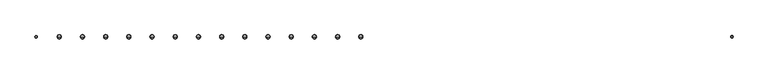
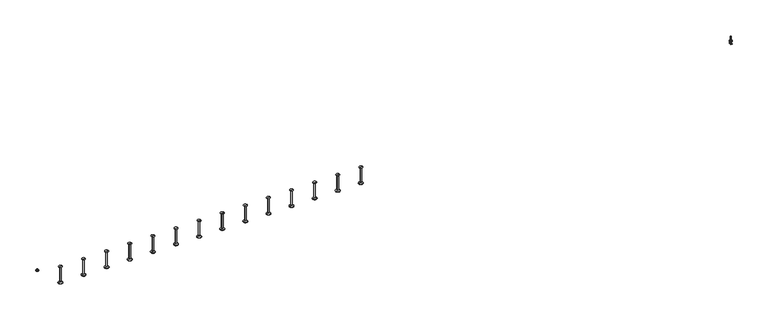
"""IFC4 building model written with IfcOpenShell, lengths in millimetres: fastener geometry, JXA(-PC) JORDAHL® toothed channels : JXA(-PC) L=6000 mm."""

from ifc_helpers import new_model, si_unit, point, frame, frame_2d, origin, place, context, project, spatial, polyline, circle_curve, trimmed, segment, composite_curve, outline, extrude, source, transform, mapped, element, save
from ifc_brep_helpers import plane_surface, cylinder_surface, revolved_surface, advanced_brep


def fastener_91ec93cb(model_context):
    return source(origin(), model_context, "Body", "SolidModel", [
        advanced_brep(
        [(2802.3333333, 0.0, -20.0), (2816.8333333, 0.0, -20.0), (2787.8333333, 0.0, -20.0), (2784.3333333, 0.0, -166.0), (2820.3333333, 0.0, -166.0), (2802.3333333, 0.0, -166.0), (2784.3333333, 0.0, -164.0), (2820.3333333, 0.0, -164.0), (2796.3333333, 0.0, -157.0717968), (2808.3333333, 0.0, -157.0717968), (2796.3333333, 0.0, -22.5), (2808.3333333, 0.0, -22.5)],
        [
            (0, 1),
            (1, 2, circle_curve(frame((2802.3333333, 0.0, -20.0), z_axis=(0.0, 0.0, 1.0), x_axis=(1.0, 0.0, 0.0)), 14.5)),
            (2, 0),
            (2, 1, circle_curve(frame((2802.3333333, 0.0, -20.0), z_axis=(0.0, 0.0, 1.0), x_axis=(1.0, 0.0, 0.0)), 14.5)),
            (3, 4, circle_curve(frame((2802.3333333, 0.0, -166.0), z_axis=(0.0, 0.0, -1.0), x_axis=(1.0, 0.0, 0.0)), 18.0)),
            (4, 5),
            (5, 3),
            (4, 3, circle_curve(frame((2802.3333333, 0.0, -166.0), z_axis=(0.0, 0.0, -1.0), x_axis=(1.0, 0.0, 0.0)), 18.0)),
            (6, 7, circle_curve(frame((2802.3333333, 0.0, -164.0), z_axis=(0.0, 0.0, -1.0), x_axis=(1.0, 0.0, 0.0)), 18.0)),
            (7, 4),
            (3, 6),
            (7, 6, circle_curve(frame((2802.3333333, 0.0, -164.0), z_axis=(0.0, 0.0, -1.0), x_axis=(1.0, 0.0, 0.0)), 18.0)),
            (8, 9, circle_curve(frame((2802.3333333, 0.0, -157.0717968), z_axis=(0.0, 0.0, -1.0), x_axis=(1.0, 0.0, 0.0)), 6.0)),
            (9, 7),
            (6, 8),
            (9, 8, circle_curve(frame((2802.3333333, 0.0, -157.0717968), z_axis=(0.0, 0.0, -1.0), x_axis=(1.0, 0.0, 0.0)), 6.0)),
            (10, 11, circle_curve(frame((2802.3333333, 0.0, -22.5), z_axis=(0.0, 0.0, -1.0), x_axis=(1.0, 0.0, 0.0)), 6.0)),
            (11, 9),
            (8, 10),
            (11, 10, circle_curve(frame((2802.3333333, 0.0, -22.5), z_axis=(0.0, 0.0, -1.0), x_axis=(1.0, 0.0, 0.0)), 6.0)),
            (1, 11),
            (10, 2),
        ],
        [
            plane_surface(frame((2802.3333333, 0.0, -20.0), z_axis=(0.0, 0.0, 1.0), x_axis=(1.0, 0.0, 0.0))),
            plane_surface(frame((2802.3333333, 0.0, -166.0), z_axis=(0.0, 0.0, -1.0), x_axis=(1.0, 0.0, 0.0))),
            cylinder_surface(frame((2802.3333333, 0.0, 2214.3150031), z_axis=(0.0, 0.0, 1.0), x_axis=(1.0, 0.0, 0.0)), 18.0),
            revolved_surface(polyline([(2820.3333333, 0.0, -164.0), (2808.3333333, 0.0, -157.0717968)]), (2802.3333333, 0.0, 2214.3150031), (0.0, 0.0, 1.0)),
            cylinder_surface(frame((2802.3333333, 0.0, 2214.3150031), z_axis=(0.0, 0.0, 1.0), x_axis=(1.0, 0.0, 0.0)), 6.0),
            revolved_surface(polyline([(2808.3333333, 0.0, -22.5), (2816.8333333, 0.0, -20.0)]), (2802.3333333, 0.0, 2214.3150031), (0.0, 0.0, 1.0)),
        ],
        [
            (0, [[1, 2, 3]]),
            (0, [[-3, 4, -1]]),
            (1, [[5, 6, 7]]),
            (1, [[8, -7, -6]]),
            (2, [[9, 10, -5, 11]]),
            (2, [[12, -11, -8, -10]]),
            (3, [[13, 14, -9, 15]]),
            (3, [[16, -15, -12, -14]]),
            (4, [[17, 18, -13, 19]]),
            (4, [[20, -19, -16, -18]]),
            (5, [[-2, 21, -17, 22]]),
            (5, [[-4, -22, -20, -21]]),
        ],
    ),
        advanced_brep(
        [(2604.6666667, 0.0, -20.0), (2619.1666667, 0.0, -20.0), (2590.1666667, 0.0, -20.0), (2586.6666667, 0.0, -166.0), (2622.6666667, 0.0, -166.0), (2604.6666667, 0.0, -166.0), (2586.6666667, 0.0, -164.0), (2622.6666667, 0.0, -164.0), (2598.6666667, 0.0, -157.0717968), (2610.6666667, 0.0, -157.0717968), (2598.6666667, 0.0, -22.5), (2610.6666667, 0.0, -22.5)],
        [
            (0, 1),
            (1, 2, circle_curve(frame((2604.6666667, 0.0, -20.0), z_axis=(0.0, 0.0, 1.0), x_axis=(1.0, 0.0, 0.0)), 14.5)),
            (2, 0),
            (2, 1, circle_curve(frame((2604.6666667, 0.0, -20.0), z_axis=(0.0, 0.0, 1.0), x_axis=(1.0, 0.0, 0.0)), 14.5)),
            (3, 4, circle_curve(frame((2604.6666667, 0.0, -166.0), z_axis=(0.0, 0.0, -1.0), x_axis=(1.0, 0.0, 0.0)), 18.0)),
            (4, 5),
            (5, 3),
            (4, 3, circle_curve(frame((2604.6666667, 0.0, -166.0), z_axis=(0.0, 0.0, -1.0), x_axis=(1.0, 0.0, 0.0)), 18.0)),
            (6, 7, circle_curve(frame((2604.6666667, 0.0, -164.0), z_axis=(0.0, 0.0, -1.0), x_axis=(1.0, 0.0, 0.0)), 18.0)),
            (7, 4),
            (3, 6),
            (7, 6, circle_curve(frame((2604.6666667, 0.0, -164.0), z_axis=(0.0, 0.0, -1.0), x_axis=(1.0, 0.0, 0.0)), 18.0)),
            (8, 9, circle_curve(frame((2604.6666667, 0.0, -157.0717968), z_axis=(0.0, 0.0, -1.0), x_axis=(1.0, 0.0, 0.0)), 6.0)),
            (9, 7),
            (6, 8),
            (9, 8, circle_curve(frame((2604.6666667, 0.0, -157.0717968), z_axis=(0.0, 0.0, -1.0), x_axis=(1.0, 0.0, 0.0)), 6.0)),
            (10, 11, circle_curve(frame((2604.6666667, 0.0, -22.5), z_axis=(0.0, 0.0, -1.0), x_axis=(1.0, 0.0, 0.0)), 6.0)),
            (11, 9),
            (8, 10),
            (11, 10, circle_curve(frame((2604.6666667, 0.0, -22.5), z_axis=(0.0, 0.0, -1.0), x_axis=(1.0, 0.0, 0.0)), 6.0)),
            (1, 11),
            (10, 2),
        ],
        [
            plane_surface(frame((2604.6666667, 0.0, -20.0), z_axis=(0.0, 0.0, 1.0), x_axis=(1.0, 0.0, 0.0))),
            plane_surface(frame((2604.6666667, 0.0, -166.0), z_axis=(0.0, 0.0, -1.0), x_axis=(1.0, 0.0, 0.0))),
            cylinder_surface(frame((2604.6666667, 0.0, 2214.3150031), z_axis=(0.0, 0.0, 1.0), x_axis=(1.0, 0.0, 0.0)), 18.0),
            revolved_surface(polyline([(2622.6666667, 0.0, -164.0), (2610.6666667, 0.0, -157.0717968)]), (2604.6666667, 0.0, 2214.3150031), (0.0, 0.0, 1.0)),
            cylinder_surface(frame((2604.6666667, 0.0, 2214.3150031), z_axis=(0.0, 0.0, 1.0), x_axis=(1.0, 0.0, 0.0)), 6.0),
            revolved_surface(polyline([(2610.6666667, 0.0, -22.5), (2619.1666667, 0.0, -20.0)]), (2604.6666667, 0.0, 2214.3150031), (0.0, 0.0, 1.0)),
        ],
        [
            (0, [[1, 2, 3]]),
            (0, [[-3, 4, -1]]),
            (1, [[5, 6, 7]]),
            (1, [[8, -7, -6]]),
            (2, [[9, 10, -5, 11]]),
            (2, [[12, -11, -8, -10]]),
            (3, [[13, 14, -9, 15]]),
            (3, [[16, -15, -12, -14]]),
            (4, [[17, 18, -13, 19]]),
            (4, [[20, -19, -16, -18]]),
            (5, [[-2, 21, -17, 22]]),
            (5, [[-4, -22, -20, -21]]),
        ],
    ),
        advanced_brep(
        [(2407.0, 0.0, -20.0), (2421.5, 0.0, -20.0), (2392.5, 0.0, -20.0), (2389.0, 0.0, -166.0), (2425.0, 0.0, -166.0), (2407.0, 0.0, -166.0), (2389.0, 0.0, -164.0), (2425.0, 0.0, -164.0), (2401.0, 0.0, -157.0717968), (2413.0, 0.0, -157.0717968), (2401.0, 0.0, -22.5), (2413.0, 0.0, -22.5)],
        [
            (0, 1),
            (1, 2, circle_curve(frame((2407.0, 0.0, -20.0), z_axis=(0.0, 0.0, 1.0), x_axis=(1.0, 0.0, 0.0)), 14.5)),
            (2, 0),
            (2, 1, circle_curve(frame((2407.0, 0.0, -20.0), z_axis=(0.0, 0.0, 1.0), x_axis=(1.0, 0.0, 0.0)), 14.5)),
            (3, 4, circle_curve(frame((2407.0, 0.0, -166.0), z_axis=(0.0, 0.0, -1.0), x_axis=(1.0, 0.0, 0.0)), 18.0)),
            (4, 5),
            (5, 3),
            (4, 3, circle_curve(frame((2407.0, 0.0, -166.0), z_axis=(0.0, 0.0, -1.0), x_axis=(1.0, 0.0, 0.0)), 18.0)),
            (6, 7, circle_curve(frame((2407.0, 0.0, -164.0), z_axis=(0.0, 0.0, -1.0), x_axis=(1.0, 0.0, 0.0)), 18.0)),
            (7, 4),
            (3, 6),
            (7, 6, circle_curve(frame((2407.0, 0.0, -164.0), z_axis=(0.0, 0.0, -1.0), x_axis=(1.0, 0.0, 0.0)), 18.0)),
            (8, 9, circle_curve(frame((2407.0, 0.0, -157.0717968), z_axis=(0.0, 0.0, -1.0), x_axis=(1.0, 0.0, 0.0)), 6.0)),
            (9, 7),
            (6, 8),
            (9, 8, circle_curve(frame((2407.0, 0.0, -157.0717968), z_axis=(0.0, 0.0, -1.0), x_axis=(1.0, 0.0, 0.0)), 6.0)),
            (10, 11, circle_curve(frame((2407.0, 0.0, -22.5), z_axis=(0.0, 0.0, -1.0), x_axis=(1.0, 0.0, 0.0)), 6.0)),
            (11, 9),
            (8, 10),
            (11, 10, circle_curve(frame((2407.0, 0.0, -22.5), z_axis=(0.0, 0.0, -1.0), x_axis=(1.0, 0.0, 0.0)), 6.0)),
            (1, 11),
            (10, 2),
        ],
        [
            plane_surface(frame((2407.0, 0.0, -20.0), z_axis=(0.0, 0.0, 1.0), x_axis=(1.0, 0.0, 0.0))),
            plane_surface(frame((2407.0, 0.0, -166.0), z_axis=(0.0, 0.0, -1.0), x_axis=(1.0, 0.0, 0.0))),
            cylinder_surface(frame((2407.0, 0.0, 2214.3150031), z_axis=(0.0, 0.0, 1.0), x_axis=(1.0, 0.0, 0.0)), 18.0),
            revolved_surface(polyline([(2425.0, 0.0, -164.0), (2413.0, 0.0, -157.0717968)]), (2407.0, 0.0, 2214.3150031), (0.0, 0.0, 1.0)),
            cylinder_surface(frame((2407.0, 0.0, 2214.3150031), z_axis=(0.0, 0.0, 1.0), x_axis=(1.0, 0.0, 0.0)), 6.0),
            revolved_surface(polyline([(2413.0, 0.0, -22.5), (2421.5, 0.0, -20.0)]), (2407.0, 0.0, 2214.3150031), (0.0, 0.0, 1.0)),
        ],
        [
            (0, [[1, 2, 3]]),
            (0, [[-3, 4, -1]]),
            (1, [[5, 6, 7]]),
            (1, [[8, -7, -6]]),
            (2, [[9, 10, -5, 11]]),
            (2, [[12, -11, -8, -10]]),
            (3, [[13, 14, -9, 15]]),
            (3, [[16, -15, -12, -14]]),
            (4, [[17, 18, -13, 19]]),
            (4, [[20, -19, -16, -18]]),
            (5, [[-2, 21, -17, 22]]),
            (5, [[-4, -22, -20, -21]]),
        ],
    ),
        advanced_brep(
        [(2209.3333333, 0.0, -20.0), (2223.8333333, 0.0, -20.0), (2194.8333333, 0.0, -20.0), (2191.3333333, 0.0, -166.0), (2227.3333333, 0.0, -166.0), (2209.3333333, 0.0, -166.0), (2191.3333333, 0.0, -164.0), (2227.3333333, 0.0, -164.0), (2203.3333333, 0.0, -157.0717968), (2215.3333333, 0.0, -157.0717968), (2203.3333333, 0.0, -22.5), (2215.3333333, 0.0, -22.5)],
        [
            (0, 1),
            (1, 2, circle_curve(frame((2209.3333333, 0.0, -20.0), z_axis=(0.0, 0.0, 1.0), x_axis=(1.0, 0.0, 0.0)), 14.5)),
            (2, 0),
            (2, 1, circle_curve(frame((2209.3333333, 0.0, -20.0), z_axis=(0.0, 0.0, 1.0), x_axis=(1.0, 0.0, 0.0)), 14.5)),
            (3, 4, circle_curve(frame((2209.3333333, 0.0, -166.0), z_axis=(0.0, 0.0, -1.0), x_axis=(1.0, 0.0, 0.0)), 18.0)),
            (4, 5),
            (5, 3),
            (4, 3, circle_curve(frame((2209.3333333, 0.0, -166.0), z_axis=(0.0, 0.0, -1.0), x_axis=(1.0, 0.0, 0.0)), 18.0)),
            (6, 7, circle_curve(frame((2209.3333333, 0.0, -164.0), z_axis=(0.0, 0.0, -1.0), x_axis=(1.0, 0.0, 0.0)), 18.0)),
            (7, 4),
            (3, 6),
            (7, 6, circle_curve(frame((2209.3333333, 0.0, -164.0), z_axis=(0.0, 0.0, -1.0), x_axis=(1.0, 0.0, 0.0)), 18.0)),
            (8, 9, circle_curve(frame((2209.3333333, 0.0, -157.0717968), z_axis=(0.0, 0.0, -1.0), x_axis=(1.0, 0.0, 0.0)), 6.0)),
            (9, 7),
            (6, 8),
            (9, 8, circle_curve(frame((2209.3333333, 0.0, -157.0717968), z_axis=(0.0, 0.0, -1.0), x_axis=(1.0, 0.0, 0.0)), 6.0)),
            (10, 11, circle_curve(frame((2209.3333333, 0.0, -22.5), z_axis=(0.0, 0.0, -1.0), x_axis=(1.0, 0.0, 0.0)), 6.0)),
            (11, 9),
            (8, 10),
            (11, 10, circle_curve(frame((2209.3333333, 0.0, -22.5), z_axis=(0.0, 0.0, -1.0), x_axis=(1.0, 0.0, 0.0)), 6.0)),
            (1, 11),
            (10, 2),
        ],
        [
            plane_surface(frame((2209.3333333, 0.0, -20.0), z_axis=(0.0, 0.0, 1.0), x_axis=(1.0, 0.0, 0.0))),
            plane_surface(frame((2209.3333333, 0.0, -166.0), z_axis=(0.0, 0.0, -1.0), x_axis=(1.0, 0.0, 0.0))),
            cylinder_surface(frame((2209.3333333, 0.0, 2214.3150031), z_axis=(0.0, 0.0, 1.0), x_axis=(1.0, 0.0, 0.0)), 18.0),
            revolved_surface(polyline([(2227.3333333, 0.0, -164.0), (2215.3333333, 0.0, -157.0717968)]), (2209.3333333, 0.0, 2214.3150031), (0.0, 0.0, 1.0)),
            cylinder_surface(frame((2209.3333333, 0.0, 2214.3150031), z_axis=(0.0, 0.0, 1.0), x_axis=(1.0, 0.0, 0.0)), 6.0),
            revolved_surface(polyline([(2215.3333333, 0.0, -22.5), (2223.8333333, 0.0, -20.0)]), (2209.3333333, 0.0, 2214.3150031), (0.0, 0.0, 1.0)),
        ],
        [
            (0, [[1, 2, 3]]),
            (0, [[-3, 4, -1]]),
            (1, [[5, 6, 7]]),
            (1, [[8, -7, -6]]),
            (2, [[9, 10, -5, 11]]),
            (2, [[12, -11, -8, -10]]),
            (3, [[13, 14, -9, 15]]),
            (3, [[16, -15, -12, -14]]),
            (4, [[17, 18, -13, 19]]),
            (4, [[20, -19, -16, -18]]),
            (5, [[-2, 21, -17, 22]]),
            (5, [[-4, -22, -20, -21]]),
        ],
    ),
        advanced_brep(
        [(2011.6666667, 0.0, -20.0), (2026.1666667, 0.0, -20.0), (1997.1666667, 0.0, -20.0), (1993.6666667, 0.0, -166.0), (2029.6666667, 0.0, -166.0), (2011.6666667, 0.0, -166.0), (1993.6666667, 0.0, -164.0), (2029.6666667, 0.0, -164.0), (2005.6666667, 0.0, -157.0717968), (2017.6666667, 0.0, -157.0717968), (2005.6666667, 0.0, -22.5), (2017.6666667, 0.0, -22.5)],
        [
            (0, 1),
            (1, 2, circle_curve(frame((2011.6666667, 0.0, -20.0), z_axis=(0.0, 0.0, 1.0), x_axis=(1.0, 0.0, 0.0)), 14.5)),
            (2, 0),
            (2, 1, circle_curve(frame((2011.6666667, 0.0, -20.0), z_axis=(0.0, 0.0, 1.0), x_axis=(1.0, 0.0, 0.0)), 14.5)),
            (3, 4, circle_curve(frame((2011.6666667, 0.0, -166.0), z_axis=(0.0, 0.0, -1.0), x_axis=(1.0, 0.0, 0.0)), 18.0)),
            (4, 5),
            (5, 3),
            (4, 3, circle_curve(frame((2011.6666667, 0.0, -166.0), z_axis=(0.0, 0.0, -1.0), x_axis=(1.0, 0.0, 0.0)), 18.0)),
            (6, 7, circle_curve(frame((2011.6666667, 0.0, -164.0), z_axis=(0.0, 0.0, -1.0), x_axis=(1.0, 0.0, 0.0)), 18.0)),
            (7, 4),
            (3, 6),
            (7, 6, circle_curve(frame((2011.6666667, 0.0, -164.0), z_axis=(0.0, 0.0, -1.0), x_axis=(1.0, 0.0, 0.0)), 18.0)),
            (8, 9, circle_curve(frame((2011.6666667, 0.0, -157.0717968), z_axis=(0.0, 0.0, -1.0), x_axis=(1.0, 0.0, 0.0)), 6.0)),
            (9, 7),
            (6, 8),
            (9, 8, circle_curve(frame((2011.6666667, 0.0, -157.0717968), z_axis=(0.0, 0.0, -1.0), x_axis=(1.0, 0.0, 0.0)), 6.0)),
            (10, 11, circle_curve(frame((2011.6666667, 0.0, -22.5), z_axis=(0.0, 0.0, -1.0), x_axis=(1.0, 0.0, 0.0)), 6.0)),
            (11, 9),
            (8, 10),
            (11, 10, circle_curve(frame((2011.6666667, 0.0, -22.5), z_axis=(0.0, 0.0, -1.0), x_axis=(1.0, 0.0, 0.0)), 6.0)),
            (1, 11),
            (10, 2),
        ],
        [
            plane_surface(frame((2011.6666667, 0.0, -20.0), z_axis=(0.0, 0.0, 1.0), x_axis=(1.0, 0.0, 0.0))),
            plane_surface(frame((2011.6666667, 0.0, -166.0), z_axis=(0.0, 0.0, -1.0), x_axis=(1.0, 0.0, 0.0))),
            cylinder_surface(frame((2011.6666667, 0.0, 2214.3150031), z_axis=(0.0, 0.0, 1.0), x_axis=(1.0, 0.0, 0.0)), 18.0),
            revolved_surface(polyline([(2029.6666667, 0.0, -164.0), (2017.6666667, 0.0, -157.0717968)]), (2011.6666667, 0.0, 2214.3150031), (0.0, 0.0, 1.0)),
            cylinder_surface(frame((2011.6666667, 0.0, 2214.3150031), z_axis=(0.0, 0.0, 1.0), x_axis=(1.0, 0.0, 0.0)), 6.0),
            revolved_surface(polyline([(2017.6666667, 0.0, -22.5), (2026.1666667, 0.0, -20.0)]), (2011.6666667, 0.0, 2214.3150031), (0.0, 0.0, 1.0)),
        ],
        [
            (0, [[1, 2, 3]]),
            (0, [[-3, 4, -1]]),
            (1, [[5, 6, 7]]),
            (1, [[8, -7, -6]]),
            (2, [[9, 10, -5, 11]]),
            (2, [[12, -11, -8, -10]]),
            (3, [[13, 14, -9, 15]]),
            (3, [[16, -15, -12, -14]]),
            (4, [[17, 18, -13, 19]]),
            (4, [[20, -19, -16, -18]]),
            (5, [[-2, 21, -17, 22]]),
            (5, [[-4, -22, -20, -21]]),
        ],
    ),
        advanced_brep(
        [(1814.0, 0.0, -20.0), (1828.5, 0.0, -20.0), (1799.5, 0.0, -20.0), (1796.0, 0.0, -166.0), (1832.0, 0.0, -166.0), (1814.0, 0.0, -166.0), (1796.0, 0.0, -164.0), (1832.0, 0.0, -164.0), (1808.0, 0.0, -157.0717968), (1820.0, 0.0, -157.0717968), (1808.0, 0.0, -22.5), (1820.0, 0.0, -22.5)],
        [
            (0, 1),
            (1, 2, circle_curve(frame((1814.0, 0.0, -20.0), z_axis=(0.0, 0.0, 1.0), x_axis=(1.0, 0.0, 0.0)), 14.5)),
            (2, 0),
            (2, 1, circle_curve(frame((1814.0, 0.0, -20.0), z_axis=(0.0, 0.0, 1.0), x_axis=(1.0, 0.0, 0.0)), 14.5)),
            (3, 4, circle_curve(frame((1814.0, 0.0, -166.0), z_axis=(0.0, 0.0, -1.0), x_axis=(1.0, 0.0, 0.0)), 18.0)),
            (4, 5),
            (5, 3),
            (4, 3, circle_curve(frame((1814.0, 0.0, -166.0), z_axis=(0.0, 0.0, -1.0), x_axis=(1.0, 0.0, 0.0)), 18.0)),
            (6, 7, circle_curve(frame((1814.0, 0.0, -164.0), z_axis=(0.0, 0.0, -1.0), x_axis=(1.0, 0.0, 0.0)), 18.0)),
            (7, 4),
            (3, 6),
            (7, 6, circle_curve(frame((1814.0, 0.0, -164.0), z_axis=(0.0, 0.0, -1.0), x_axis=(1.0, 0.0, 0.0)), 18.0)),
            (8, 9, circle_curve(frame((1814.0, 0.0, -157.0717968), z_axis=(0.0, 0.0, -1.0), x_axis=(1.0, 0.0, 0.0)), 6.0)),
            (9, 7),
            (6, 8),
            (9, 8, circle_curve(frame((1814.0, 0.0, -157.0717968), z_axis=(0.0, 0.0, -1.0), x_axis=(1.0, 0.0, 0.0)), 6.0)),
            (10, 11, circle_curve(frame((1814.0, 0.0, -22.5), z_axis=(0.0, 0.0, -1.0), x_axis=(1.0, 0.0, 0.0)), 6.0)),
            (11, 9),
            (8, 10),
            (11, 10, circle_curve(frame((1814.0, 0.0, -22.5), z_axis=(0.0, 0.0, -1.0), x_axis=(1.0, 0.0, 0.0)), 6.0)),
            (1, 11),
            (10, 2),
        ],
        [
            plane_surface(frame((1814.0, 0.0, -20.0), z_axis=(0.0, 0.0, 1.0), x_axis=(1.0, 0.0, 0.0))),
            plane_surface(frame((1814.0, 0.0, -166.0), z_axis=(0.0, 0.0, -1.0), x_axis=(1.0, 0.0, 0.0))),
            cylinder_surface(frame((1814.0, 0.0, 2214.3150031), z_axis=(0.0, 0.0, 1.0), x_axis=(1.0, 0.0, 0.0)), 18.0),
            revolved_surface(polyline([(1832.0, 0.0, -164.0), (1820.0, 0.0, -157.0717968)]), (1814.0, 0.0, 2214.3150031), (0.0, 0.0, 1.0)),
            cylinder_surface(frame((1814.0, 0.0, 2214.3150031), z_axis=(0.0, 0.0, 1.0), x_axis=(1.0, 0.0, 0.0)), 6.0),
            revolved_surface(polyline([(1820.0, 0.0, -22.5), (1828.5, 0.0, -20.0)]), (1814.0, 0.0, 2214.3150031), (0.0, 0.0, 1.0)),
        ],
        [
            (0, [[1, 2, 3]]),
            (0, [[-3, 4, -1]]),
            (1, [[5, 6, 7]]),
            (1, [[8, -7, -6]]),
            (2, [[9, 10, -5, 11]]),
            (2, [[12, -11, -8, -10]]),
            (3, [[13, 14, -9, 15]]),
            (3, [[16, -15, -12, -14]]),
            (4, [[17, 18, -13, 19]]),
            (4, [[20, -19, -16, -18]]),
            (5, [[-2, 21, -17, 22]]),
            (5, [[-4, -22, -20, -21]]),
        ],
    ),
        advanced_brep(
        [(1616.3333333, 0.0, -20.0), (1630.8333333, 0.0, -20.0), (1601.8333333, 0.0, -20.0), (1598.3333333, 0.0, -166.0), (1634.3333333, 0.0, -166.0), (1616.3333333, 0.0, -166.0), (1598.3333333, 0.0, -164.0), (1634.3333333, 0.0, -164.0), (1610.3333333, 0.0, -157.0717968), (1622.3333333, 0.0, -157.0717968), (1610.3333333, 0.0, -22.5), (1622.3333333, 0.0, -22.5)],
        [
            (0, 1),
            (1, 2, circle_curve(frame((1616.3333333, 0.0, -20.0), z_axis=(0.0, 0.0, 1.0), x_axis=(1.0, 0.0, 0.0)), 14.5)),
            (2, 0),
            (2, 1, circle_curve(frame((1616.3333333, 0.0, -20.0), z_axis=(0.0, 0.0, 1.0), x_axis=(1.0, 0.0, 0.0)), 14.5)),
            (3, 4, circle_curve(frame((1616.3333333, 0.0, -166.0), z_axis=(0.0, 0.0, -1.0), x_axis=(1.0, 0.0, 0.0)), 18.0)),
            (4, 5),
            (5, 3),
            (4, 3, circle_curve(frame((1616.3333333, 0.0, -166.0), z_axis=(0.0, 0.0, -1.0), x_axis=(1.0, 0.0, 0.0)), 18.0)),
            (6, 7, circle_curve(frame((1616.3333333, 0.0, -164.0), z_axis=(0.0, 0.0, -1.0), x_axis=(1.0, 0.0, 0.0)), 18.0)),
            (7, 4),
            (3, 6),
            (7, 6, circle_curve(frame((1616.3333333, 0.0, -164.0), z_axis=(0.0, 0.0, -1.0), x_axis=(1.0, 0.0, 0.0)), 18.0)),
            (8, 9, circle_curve(frame((1616.3333333, 0.0, -157.0717968), z_axis=(0.0, 0.0, -1.0), x_axis=(1.0, 0.0, 0.0)), 6.0)),
            (9, 7),
            (6, 8),
            (9, 8, circle_curve(frame((1616.3333333, 0.0, -157.0717968), z_axis=(0.0, 0.0, -1.0), x_axis=(1.0, 0.0, 0.0)), 6.0)),
            (10, 11, circle_curve(frame((1616.3333333, 0.0, -22.5), z_axis=(0.0, 0.0, -1.0), x_axis=(1.0, 0.0, 0.0)), 6.0)),
            (11, 9),
            (8, 10),
            (11, 10, circle_curve(frame((1616.3333333, 0.0, -22.5), z_axis=(0.0, 0.0, -1.0), x_axis=(1.0, 0.0, 0.0)), 6.0)),
            (1, 11),
            (10, 2),
        ],
        [
            plane_surface(frame((1616.3333333, 0.0, -20.0), z_axis=(0.0, 0.0, 1.0), x_axis=(1.0, 0.0, 0.0))),
            plane_surface(frame((1616.3333333, 0.0, -166.0), z_axis=(0.0, 0.0, -1.0), x_axis=(1.0, 0.0, 0.0))),
            cylinder_surface(frame((1616.3333333, 0.0, 2214.3150031), z_axis=(0.0, 0.0, 1.0), x_axis=(1.0, 0.0, 0.0)), 18.0),
            revolved_surface(polyline([(1634.3333333, 0.0, -164.0), (1622.3333333, 0.0, -157.0717968)]), (1616.3333333, 0.0, 2214.3150031), (0.0, 0.0, 1.0)),
            cylinder_surface(frame((1616.3333333, 0.0, 2214.3150031), z_axis=(0.0, 0.0, 1.0), x_axis=(1.0, 0.0, 0.0)), 6.0),
            revolved_surface(polyline([(1622.3333333, 0.0, -22.5), (1630.8333333, 0.0, -20.0)]), (1616.3333333, 0.0, 2214.3150031), (0.0, 0.0, 1.0)),
        ],
        [
            (0, [[1, 2, 3]]),
            (0, [[-3, 4, -1]]),
            (1, [[5, 6, 7]]),
            (1, [[8, -7, -6]]),
            (2, [[9, 10, -5, 11]]),
            (2, [[12, -11, -8, -10]]),
            (3, [[13, 14, -9, 15]]),
            (3, [[16, -15, -12, -14]]),
            (4, [[17, 18, -13, 19]]),
            (4, [[20, -19, -16, -18]]),
            (5, [[-2, 21, -17, 22]]),
            (5, [[-4, -22, -20, -21]]),
        ],
    ),
        advanced_brep(
        [(1418.6666667, 0.0, -20.0), (1433.1666667, 0.0, -20.0), (1404.1666667, 0.0, -20.0), (1400.6666667, 0.0, -166.0), (1436.6666667, 0.0, -166.0), (1418.6666667, 0.0, -166.0), (1400.6666667, 0.0, -164.0), (1436.6666667, 0.0, -164.0), (1412.6666667, 0.0, -157.0717968), (1424.6666667, 0.0, -157.0717968), (1412.6666667, 0.0, -22.5), (1424.6666667, 0.0, -22.5)],
        [
            (0, 1),
            (1, 2, circle_curve(frame((1418.6666667, 0.0, -20.0), z_axis=(0.0, 0.0, 1.0), x_axis=(1.0, 0.0, 0.0)), 14.5)),
            (2, 0),
            (2, 1, circle_curve(frame((1418.6666667, 0.0, -20.0), z_axis=(0.0, 0.0, 1.0), x_axis=(1.0, 0.0, 0.0)), 14.5)),
            (3, 4, circle_curve(frame((1418.6666667, 0.0, -166.0), z_axis=(0.0, 0.0, -1.0), x_axis=(1.0, 0.0, 0.0)), 18.0)),
            (4, 5),
            (5, 3),
            (4, 3, circle_curve(frame((1418.6666667, 0.0, -166.0), z_axis=(0.0, 0.0, -1.0), x_axis=(1.0, 0.0, 0.0)), 18.0)),
            (6, 7, circle_curve(frame((1418.6666667, 0.0, -164.0), z_axis=(0.0, 0.0, -1.0), x_axis=(1.0, 0.0, 0.0)), 18.0)),
            (7, 4),
            (3, 6),
            (7, 6, circle_curve(frame((1418.6666667, 0.0, -164.0), z_axis=(0.0, 0.0, -1.0), x_axis=(1.0, 0.0, 0.0)), 18.0)),
            (8, 9, circle_curve(frame((1418.6666667, 0.0, -157.0717968), z_axis=(0.0, 0.0, -1.0), x_axis=(1.0, 0.0, 0.0)), 6.0)),
            (9, 7),
            (6, 8),
            (9, 8, circle_curve(frame((1418.6666667, 0.0, -157.0717968), z_axis=(0.0, 0.0, -1.0), x_axis=(1.0, 0.0, 0.0)), 6.0)),
            (10, 11, circle_curve(frame((1418.6666667, 0.0, -22.5), z_axis=(0.0, 0.0, -1.0), x_axis=(1.0, 0.0, 0.0)), 6.0)),
            (11, 9),
            (8, 10),
            (11, 10, circle_curve(frame((1418.6666667, 0.0, -22.5), z_axis=(0.0, 0.0, -1.0), x_axis=(1.0, 0.0, 0.0)), 6.0)),
            (1, 11),
            (10, 2),
        ],
        [
            plane_surface(frame((1418.6666667, 0.0, -20.0), z_axis=(0.0, 0.0, 1.0), x_axis=(1.0, 0.0, 0.0))),
            plane_surface(frame((1418.6666667, 0.0, -166.0), z_axis=(0.0, 0.0, -1.0), x_axis=(1.0, 0.0, 0.0))),
            cylinder_surface(frame((1418.6666667, 0.0, 2214.3150031), z_axis=(0.0, 0.0, 1.0), x_axis=(1.0, 0.0, 0.0)), 18.0),
            revolved_surface(polyline([(1436.6666667, 0.0, -164.0), (1424.6666667, 0.0, -157.0717968)]), (1418.6666667, 0.0, 2214.3150031), (0.0, 0.0, 1.0)),
            cylinder_surface(frame((1418.6666667, 0.0, 2214.3150031), z_axis=(0.0, 0.0, 1.0), x_axis=(1.0, 0.0, 0.0)), 6.0),
            revolved_surface(polyline([(1424.6666667, 0.0, -22.5), (1433.1666667, 0.0, -20.0)]), (1418.6666667, 0.0, 2214.3150031), (0.0, 0.0, 1.0)),
        ],
        [
            (0, [[1, 2, 3]]),
            (0, [[-3, 4, -1]]),
            (1, [[5, 6, 7]]),
            (1, [[8, -7, -6]]),
            (2, [[9, 10, -5, 11]]),
            (2, [[12, -11, -8, -10]]),
            (3, [[13, 14, -9, 15]]),
            (3, [[16, -15, -12, -14]]),
            (4, [[17, 18, -13, 19]]),
            (4, [[20, -19, -16, -18]]),
            (5, [[-2, 21, -17, 22]]),
            (5, [[-4, -22, -20, -21]]),
        ],
    ),
        advanced_brep(
        [(1221.0, 0.0, -20.0), (1235.5, 0.0, -20.0), (1206.5, 0.0, -20.0), (1203.0, 0.0, -166.0), (1239.0, 0.0, -166.0), (1221.0, 0.0, -166.0), (1203.0, 0.0, -164.0), (1239.0, 0.0, -164.0), (1215.0, 0.0, -157.0717968), (1227.0, 0.0, -157.0717968), (1215.0, 0.0, -22.5), (1227.0, 0.0, -22.5)],
        [
            (0, 1),
            (1, 2, circle_curve(frame((1221.0, 0.0, -20.0), z_axis=(0.0, 0.0, 1.0), x_axis=(1.0, 0.0, 0.0)), 14.5)),
            (2, 0),
            (2, 1, circle_curve(frame((1221.0, 0.0, -20.0), z_axis=(0.0, 0.0, 1.0), x_axis=(1.0, 0.0, 0.0)), 14.5)),
            (3, 4, circle_curve(frame((1221.0, 0.0, -166.0), z_axis=(0.0, 0.0, -1.0), x_axis=(1.0, 0.0, 0.0)), 18.0)),
            (4, 5),
            (5, 3),
            (4, 3, circle_curve(frame((1221.0, 0.0, -166.0), z_axis=(0.0, 0.0, -1.0), x_axis=(1.0, 0.0, 0.0)), 18.0)),
            (6, 7, circle_curve(frame((1221.0, 0.0, -164.0), z_axis=(0.0, 0.0, -1.0), x_axis=(1.0, 0.0, 0.0)), 18.0)),
            (7, 4),
            (3, 6),
            (7, 6, circle_curve(frame((1221.0, 0.0, -164.0), z_axis=(0.0, 0.0, -1.0), x_axis=(1.0, 0.0, 0.0)), 18.0)),
            (8, 9, circle_curve(frame((1221.0, 0.0, -157.0717968), z_axis=(0.0, 0.0, -1.0), x_axis=(1.0, 0.0, 0.0)), 6.0)),
            (9, 7),
            (6, 8),
            (9, 8, circle_curve(frame((1221.0, 0.0, -157.0717968), z_axis=(0.0, 0.0, -1.0), x_axis=(1.0, 0.0, 0.0)), 6.0)),
            (10, 11, circle_curve(frame((1221.0, 0.0, -22.5), z_axis=(0.0, 0.0, -1.0), x_axis=(1.0, 0.0, 0.0)), 6.0)),
            (11, 9),
            (8, 10),
            (11, 10, circle_curve(frame((1221.0, 0.0, -22.5), z_axis=(0.0, 0.0, -1.0), x_axis=(1.0, 0.0, 0.0)), 6.0)),
            (1, 11),
            (10, 2),
        ],
        [
            plane_surface(frame((1221.0, 0.0, -20.0), z_axis=(0.0, 0.0, 1.0), x_axis=(1.0, 0.0, 0.0))),
            plane_surface(frame((1221.0, 0.0, -166.0), z_axis=(0.0, 0.0, -1.0), x_axis=(1.0, 0.0, 0.0))),
            cylinder_surface(frame((1221.0, 0.0, 2214.3150031), z_axis=(0.0, 0.0, 1.0), x_axis=(1.0, 0.0, 0.0)), 18.0),
            revolved_surface(polyline([(1239.0, 0.0, -164.0), (1227.0, 0.0, -157.0717968)]), (1221.0, 0.0, 2214.3150031), (0.0, 0.0, 1.0)),
            cylinder_surface(frame((1221.0, 0.0, 2214.3150031), z_axis=(0.0, 0.0, 1.0), x_axis=(1.0, 0.0, 0.0)), 6.0),
            revolved_surface(polyline([(1227.0, 0.0, -22.5), (1235.5, 0.0, -20.0)]), (1221.0, 0.0, 2214.3150031), (0.0, 0.0, 1.0)),
        ],
        [
            (0, [[1, 2, 3]]),
            (0, [[-3, 4, -1]]),
            (1, [[5, 6, 7]]),
            (1, [[8, -7, -6]]),
            (2, [[9, 10, -5, 11]]),
            (2, [[12, -11, -8, -10]]),
            (3, [[13, 14, -9, 15]]),
            (3, [[16, -15, -12, -14]]),
            (4, [[17, 18, -13, 19]]),
            (4, [[20, -19, -16, -18]]),
            (5, [[-2, 21, -17, 22]]),
            (5, [[-4, -22, -20, -21]]),
        ],
    ),
        advanced_brep(
        [(1023.3333333, 0.0, -20.0), (1037.8333333, 0.0, -20.0), (1008.8333333, 0.0, -20.0), (1005.3333333, 0.0, -166.0), (1041.3333333, 0.0, -166.0), (1023.3333333, 0.0, -166.0), (1005.3333333, 0.0, -164.0), (1041.3333333, 0.0, -164.0), (1017.3333333, 0.0, -157.0717968), (1029.3333333, 0.0, -157.0717968), (1017.3333333, 0.0, -22.5), (1029.3333333, 0.0, -22.5)],
        [
            (0, 1),
            (1, 2, circle_curve(frame((1023.3333333, 0.0, -20.0), z_axis=(0.0, 0.0, 1.0), x_axis=(1.0, 0.0, 0.0)), 14.5)),
            (2, 0),
            (2, 1, circle_curve(frame((1023.3333333, 0.0, -20.0), z_axis=(0.0, 0.0, 1.0), x_axis=(1.0, 0.0, 0.0)), 14.5)),
            (3, 4, circle_curve(frame((1023.3333333, 0.0, -166.0), z_axis=(0.0, 0.0, -1.0), x_axis=(1.0, 0.0, 0.0)), 18.0)),
            (4, 5),
            (5, 3),
            (4, 3, circle_curve(frame((1023.3333333, 0.0, -166.0), z_axis=(0.0, 0.0, -1.0), x_axis=(1.0, 0.0, 0.0)), 18.0)),
            (6, 7, circle_curve(frame((1023.3333333, 0.0, -164.0), z_axis=(0.0, 0.0, -1.0), x_axis=(1.0, 0.0, 0.0)), 18.0)),
            (7, 4),
            (3, 6),
            (7, 6, circle_curve(frame((1023.3333333, 0.0, -164.0), z_axis=(0.0, 0.0, -1.0), x_axis=(1.0, 0.0, 0.0)), 18.0)),
            (8, 9, circle_curve(frame((1023.3333333, 0.0, -157.0717968), z_axis=(0.0, 0.0, -1.0), x_axis=(1.0, 0.0, 0.0)), 6.0)),
            (9, 7),
            (6, 8),
            (9, 8, circle_curve(frame((1023.3333333, 0.0, -157.0717968), z_axis=(0.0, 0.0, -1.0), x_axis=(1.0, 0.0, 0.0)), 6.0)),
            (10, 11, circle_curve(frame((1023.3333333, 0.0, -22.5), z_axis=(0.0, 0.0, -1.0), x_axis=(1.0, 0.0, 0.0)), 6.0)),
            (11, 9),
            (8, 10),
            (11, 10, circle_curve(frame((1023.3333333, 0.0, -22.5), z_axis=(0.0, 0.0, -1.0), x_axis=(1.0, 0.0, 0.0)), 6.0)),
            (1, 11),
            (10, 2),
        ],
        [
            plane_surface(frame((1023.3333333, 0.0, -20.0), z_axis=(0.0, 0.0, 1.0), x_axis=(1.0, 0.0, 0.0))),
            plane_surface(frame((1023.3333333, 0.0, -166.0), z_axis=(0.0, 0.0, -1.0), x_axis=(1.0, 0.0, 0.0))),
            cylinder_surface(frame((1023.3333333, 0.0, 2214.3150031), z_axis=(0.0, 0.0, 1.0), x_axis=(1.0, 0.0, 0.0)), 18.0),
            revolved_surface(polyline([(1041.3333333, 0.0, -164.0), (1029.3333333, 0.0, -157.0717968)]), (1023.3333333, 0.0, 2214.3150031), (0.0, 0.0, 1.0)),
            cylinder_surface(frame((1023.3333333, 0.0, 2214.3150031), z_axis=(0.0, 0.0, 1.0), x_axis=(1.0, 0.0, 0.0)), 6.0),
            revolved_surface(polyline([(1029.3333333, 0.0, -22.5), (1037.8333333, 0.0, -20.0)]), (1023.3333333, 0.0, 2214.3150031), (0.0, 0.0, 1.0)),
        ],
        [
            (0, [[1, 2, 3]]),
            (0, [[-3, 4, -1]]),
            (1, [[5, 6, 7]]),
            (1, [[8, -7, -6]]),
            (2, [[9, 10, -5, 11]]),
            (2, [[12, -11, -8, -10]]),
            (3, [[13, 14, -9, 15]]),
            (3, [[16, -15, -12, -14]]),
            (4, [[17, 18, -13, 19]]),
            (4, [[20, -19, -16, -18]]),
            (5, [[-2, 21, -17, 22]]),
            (5, [[-4, -22, -20, -21]]),
        ],
    ),
        advanced_brep(
        [(825.6666667, 0.0, -20.0), (840.1666667, 0.0, -20.0), (811.1666667, 0.0, -20.0), (807.6666667, 0.0, -166.0), (843.6666667, 0.0, -166.0), (825.6666667, 0.0, -166.0), (807.6666667, 0.0, -164.0), (843.6666667, 0.0, -164.0), (819.6666667, 0.0, -157.0717968), (831.6666667, 0.0, -157.0717968), (819.6666667, 0.0, -22.5), (831.6666667, 0.0, -22.5)],
        [
            (0, 1),
            (1, 2, circle_curve(frame((825.6666667, 0.0, -20.0), z_axis=(0.0, 0.0, 1.0), x_axis=(1.0, 0.0, 0.0)), 14.5)),
            (2, 0),
            (2, 1, circle_curve(frame((825.6666667, 0.0, -20.0), z_axis=(0.0, 0.0, 1.0), x_axis=(1.0, 0.0, 0.0)), 14.5)),
            (3, 4, circle_curve(frame((825.6666667, 0.0, -166.0), z_axis=(0.0, 0.0, -1.0), x_axis=(1.0, 0.0, 0.0)), 18.0)),
            (4, 5),
            (5, 3),
            (4, 3, circle_curve(frame((825.6666667, 0.0, -166.0), z_axis=(0.0, 0.0, -1.0), x_axis=(1.0, 0.0, 0.0)), 18.0)),
            (6, 7, circle_curve(frame((825.6666667, 0.0, -164.0), z_axis=(0.0, 0.0, -1.0), x_axis=(1.0, 0.0, 0.0)), 18.0)),
            (7, 4),
            (3, 6),
            (7, 6, circle_curve(frame((825.6666667, 0.0, -164.0), z_axis=(0.0, 0.0, -1.0), x_axis=(1.0, 0.0, 0.0)), 18.0)),
            (8, 9, circle_curve(frame((825.6666667, 0.0, -157.0717968), z_axis=(0.0, 0.0, -1.0), x_axis=(1.0, 0.0, 0.0)), 6.0)),
            (9, 7),
            (6, 8),
            (9, 8, circle_curve(frame((825.6666667, 0.0, -157.0717968), z_axis=(0.0, 0.0, -1.0), x_axis=(1.0, 0.0, 0.0)), 6.0)),
            (10, 11, circle_curve(frame((825.6666667, 0.0, -22.5), z_axis=(0.0, 0.0, -1.0), x_axis=(1.0, 0.0, 0.0)), 6.0)),
            (11, 9),
            (8, 10),
            (11, 10, circle_curve(frame((825.6666667, 0.0, -22.5), z_axis=(0.0, 0.0, -1.0), x_axis=(1.0, 0.0, 0.0)), 6.0)),
            (1, 11),
            (10, 2),
        ],
        [
            plane_surface(frame((825.6666667, 0.0, -20.0), z_axis=(0.0, 0.0, 1.0), x_axis=(1.0, 0.0, 0.0))),
            plane_surface(frame((825.6666667, 0.0, -166.0), z_axis=(0.0, 0.0, -1.0), x_axis=(1.0, 0.0, 0.0))),
            cylinder_surface(frame((825.6666667, 0.0, 2214.3150031), z_axis=(0.0, 0.0, 1.0), x_axis=(1.0, 0.0, 0.0)), 18.0),
            revolved_surface(polyline([(843.6666667, 0.0, -164.0), (831.6666667, 0.0, -157.0717968)]), (825.6666667, 0.0, 2214.3150031), (0.0, 0.0, 1.0)),
            cylinder_surface(frame((825.6666667, 0.0, 2214.3150031), z_axis=(0.0, 0.0, 1.0), x_axis=(1.0, 0.0, 0.0)), 6.0),
            revolved_surface(polyline([(831.6666667, 0.0, -22.5), (840.1666667, 0.0, -20.0)]), (825.6666667, 0.0, 2214.3150031), (0.0, 0.0, 1.0)),
        ],
        [
            (0, [[1, 2, 3]]),
            (0, [[-3, 4, -1]]),
            (1, [[5, 6, 7]]),
            (1, [[8, -7, -6]]),
            (2, [[9, 10, -5, 11]]),
            (2, [[12, -11, -8, -10]]),
            (3, [[13, 14, -9, 15]]),
            (3, [[16, -15, -12, -14]]),
            (4, [[17, 18, -13, 19]]),
            (4, [[20, -19, -16, -18]]),
            (5, [[-2, 21, -17, 22]]),
            (5, [[-4, -22, -20, -21]]),
        ],
    ),
        advanced_brep(
        [(628.0, 0.0, -20.0), (642.5, 0.0, -20.0), (613.5, 0.0, -20.0), (610.0, 0.0, -166.0), (646.0, 0.0, -166.0), (628.0, 0.0, -166.0), (610.0, 0.0, -164.0), (646.0, 0.0, -164.0), (622.0, 0.0, -157.0717968), (634.0, 0.0, -157.0717968), (622.0, 0.0, -22.5), (634.0, 0.0, -22.5)],
        [
            (0, 1),
            (1, 2, circle_curve(frame((628.0, 0.0, -20.0), z_axis=(0.0, 0.0, 1.0), x_axis=(1.0, 0.0, 0.0)), 14.5)),
            (2, 0),
            (2, 1, circle_curve(frame((628.0, 0.0, -20.0), z_axis=(0.0, 0.0, 1.0), x_axis=(1.0, 0.0, 0.0)), 14.5)),
            (3, 4, circle_curve(frame((628.0, 0.0, -166.0), z_axis=(0.0, 0.0, -1.0), x_axis=(1.0, 0.0, 0.0)), 18.0)),
            (4, 5),
            (5, 3),
            (4, 3, circle_curve(frame((628.0, 0.0, -166.0), z_axis=(0.0, 0.0, -1.0), x_axis=(1.0, 0.0, 0.0)), 18.0)),
            (6, 7, circle_curve(frame((628.0, 0.0, -164.0), z_axis=(0.0, 0.0, -1.0), x_axis=(1.0, 0.0, 0.0)), 18.0)),
            (7, 4),
            (3, 6),
            (7, 6, circle_curve(frame((628.0, 0.0, -164.0), z_axis=(0.0, 0.0, -1.0), x_axis=(1.0, 0.0, 0.0)), 18.0)),
            (8, 9, circle_curve(frame((628.0, 0.0, -157.0717968), z_axis=(0.0, 0.0, -1.0), x_axis=(1.0, 0.0, 0.0)), 6.0)),
            (9, 7),
            (6, 8),
            (9, 8, circle_curve(frame((628.0, 0.0, -157.0717968), z_axis=(0.0, 0.0, -1.0), x_axis=(1.0, 0.0, 0.0)), 6.0)),
            (10, 11, circle_curve(frame((628.0, 0.0, -22.5), z_axis=(0.0, 0.0, -1.0), x_axis=(1.0, 0.0, 0.0)), 6.0)),
            (11, 9),
            (8, 10),
            (11, 10, circle_curve(frame((628.0, 0.0, -22.5), z_axis=(0.0, 0.0, -1.0), x_axis=(1.0, 0.0, 0.0)), 6.0)),
            (1, 11),
            (10, 2),
        ],
        [
            plane_surface(frame((628.0, 0.0, -20.0), z_axis=(0.0, 0.0, 1.0), x_axis=(1.0, 0.0, 0.0))),
            plane_surface(frame((628.0, 0.0, -166.0), z_axis=(0.0, 0.0, -1.0), x_axis=(1.0, 0.0, 0.0))),
            cylinder_surface(frame((628.0, 0.0, 2214.3150031), z_axis=(0.0, 0.0, 1.0), x_axis=(1.0, 0.0, 0.0)), 18.0),
            revolved_surface(polyline([(646.0, 0.0, -164.0), (634.0, 0.0, -157.0717968)]), (628.0, 0.0, 2214.3150031), (0.0, 0.0, 1.0)),
            cylinder_surface(frame((628.0, 0.0, 2214.3150031), z_axis=(0.0, 0.0, 1.0), x_axis=(1.0, 0.0, 0.0)), 6.0),
            revolved_surface(polyline([(634.0, 0.0, -22.5), (642.5, 0.0, -20.0)]), (628.0, 0.0, 2214.3150031), (0.0, 0.0, 1.0)),
        ],
        [
            (0, [[1, 2, 3]]),
            (0, [[-3, 4, -1]]),
            (1, [[5, 6, 7]]),
            (1, [[8, -7, -6]]),
            (2, [[9, 10, -5, 11]]),
            (2, [[12, -11, -8, -10]]),
            (3, [[13, 14, -9, 15]]),
            (3, [[16, -15, -12, -14]]),
            (4, [[17, 18, -13, 19]]),
            (4, [[20, -19, -16, -18]]),
            (5, [[-2, 21, -17, 22]]),
            (5, [[-4, -22, -20, -21]]),
        ],
    ),
        advanced_brep(
        [(430.3333333, 0.0, -20.0), (444.8333333, 0.0, -20.0), (415.8333333, 0.0, -20.0), (412.3333333, 0.0, -166.0), (448.3333333, 0.0, -166.0), (430.3333333, 0.0, -166.0), (412.3333333, 0.0, -164.0), (448.3333333, 0.0, -164.0), (424.3333333, 0.0, -157.0717968), (436.3333333, 0.0, -157.0717968), (424.3333333, 0.0, -22.5), (436.3333333, 0.0, -22.5)],
        [
            (0, 1),
            (1, 2, circle_curve(frame((430.3333333, 0.0, -20.0), z_axis=(0.0, 0.0, 1.0), x_axis=(1.0, 0.0, 0.0)), 14.5)),
            (2, 0),
            (2, 1, circle_curve(frame((430.3333333, 0.0, -20.0), z_axis=(0.0, 0.0, 1.0), x_axis=(1.0, 0.0, 0.0)), 14.5)),
            (3, 4, circle_curve(frame((430.3333333, 0.0, -166.0), z_axis=(0.0, 0.0, -1.0), x_axis=(1.0, 0.0, 0.0)), 18.0)),
            (4, 5),
            (5, 3),
            (4, 3, circle_curve(frame((430.3333333, 0.0, -166.0), z_axis=(0.0, 0.0, -1.0), x_axis=(1.0, 0.0, 0.0)), 18.0)),
            (6, 7, circle_curve(frame((430.3333333, 0.0, -164.0), z_axis=(0.0, 0.0, -1.0), x_axis=(1.0, 0.0, 0.0)), 18.0)),
            (7, 4),
            (3, 6),
            (7, 6, circle_curve(frame((430.3333333, 0.0, -164.0), z_axis=(0.0, 0.0, -1.0), x_axis=(1.0, 0.0, 0.0)), 18.0)),
            (8, 9, circle_curve(frame((430.3333333, 0.0, -157.0717968), z_axis=(0.0, 0.0, -1.0), x_axis=(1.0, 0.0, 0.0)), 6.0)),
            (9, 7),
            (6, 8),
            (9, 8, circle_curve(frame((430.3333333, 0.0, -157.0717968), z_axis=(0.0, 0.0, -1.0), x_axis=(1.0, 0.0, 0.0)), 6.0)),
            (10, 11, circle_curve(frame((430.3333333, 0.0, -22.5), z_axis=(0.0, 0.0, -1.0), x_axis=(1.0, 0.0, 0.0)), 6.0)),
            (11, 9),
            (8, 10),
            (11, 10, circle_curve(frame((430.3333333, 0.0, -22.5), z_axis=(0.0, 0.0, -1.0), x_axis=(1.0, 0.0, 0.0)), 6.0)),
            (1, 11),
            (10, 2),
        ],
        [
            plane_surface(frame((430.3333333, 0.0, -20.0), z_axis=(0.0, 0.0, 1.0), x_axis=(1.0, 0.0, 0.0))),
            plane_surface(frame((430.3333333, 0.0, -166.0), z_axis=(0.0, 0.0, -1.0), x_axis=(1.0, 0.0, 0.0))),
            cylinder_surface(frame((430.3333333, 0.0, 2214.3150031), z_axis=(0.0, 0.0, 1.0), x_axis=(1.0, 0.0, 0.0)), 18.0),
            revolved_surface(polyline([(448.3333333, 0.0, -164.0), (436.3333333, 0.0, -157.0717968)]), (430.3333333, 0.0, 2214.3150031), (0.0, 0.0, 1.0)),
            cylinder_surface(frame((430.3333333, 0.0, 2214.3150031), z_axis=(0.0, 0.0, 1.0), x_axis=(1.0, 0.0, 0.0)), 6.0),
            revolved_surface(polyline([(436.3333333, 0.0, -22.5), (444.8333333, 0.0, -20.0)]), (430.3333333, 0.0, 2214.3150031), (0.0, 0.0, 1.0)),
        ],
        [
            (0, [[1, 2, 3]]),
            (0, [[-3, 4, -1]]),
            (1, [[5, 6, 7]]),
            (1, [[8, -7, -6]]),
            (2, [[9, 10, -5, 11]]),
            (2, [[12, -11, -8, -10]]),
            (3, [[13, 14, -9, 15]]),
            (3, [[16, -15, -12, -14]]),
            (4, [[17, 18, -13, 19]]),
            (4, [[20, -19, -16, -18]]),
            (5, [[-2, 21, -17, 22]]),
            (5, [[-4, -22, -20, -21]]),
        ],
    ),
        advanced_brep(
        [(232.6666667, 0.0, -20.0), (247.1666667, 0.0, -20.0), (218.1666667, 0.0, -20.0), (214.6666667, 0.0, -166.0), (250.6666667, 0.0, -166.0), (232.6666667, 0.0, -166.0), (214.6666667, 0.0, -164.0), (250.6666667, 0.0, -164.0), (226.6666667, 0.0, -157.0717968), (238.6666667, 0.0, -157.0717968), (226.6666667, 0.0, -22.5), (238.6666667, 0.0, -22.5)],
        [
            (0, 1),
            (1, 2, circle_curve(frame((232.6666667, 0.0, -20.0), z_axis=(0.0, 0.0, 1.0), x_axis=(1.0, 0.0, 0.0)), 14.5)),
            (2, 0),
            (2, 1, circle_curve(frame((232.6666667, 0.0, -20.0), z_axis=(0.0, 0.0, 1.0), x_axis=(1.0, 0.0, 0.0)), 14.5)),
            (3, 4, circle_curve(frame((232.6666667, 0.0, -166.0), z_axis=(0.0, 0.0, -1.0), x_axis=(1.0, 0.0, 0.0)), 18.0)),
            (4, 5),
            (5, 3),
            (4, 3, circle_curve(frame((232.6666667, 0.0, -166.0), z_axis=(0.0, 0.0, -1.0), x_axis=(1.0, 0.0, 0.0)), 18.0)),
            (6, 7, circle_curve(frame((232.6666667, 0.0, -164.0), z_axis=(0.0, 0.0, -1.0), x_axis=(1.0, 0.0, 0.0)), 18.0)),
            (7, 4),
            (3, 6),
            (7, 6, circle_curve(frame((232.6666667, 0.0, -164.0), z_axis=(0.0, 0.0, -1.0), x_axis=(1.0, 0.0, 0.0)), 18.0)),
            (8, 9, circle_curve(frame((232.6666667, 0.0, -157.0717968), z_axis=(0.0, 0.0, -1.0), x_axis=(1.0, 0.0, 0.0)), 6.0)),
            (9, 7),
            (6, 8),
            (9, 8, circle_curve(frame((232.6666667, 0.0, -157.0717968), z_axis=(0.0, 0.0, -1.0), x_axis=(1.0, 0.0, 0.0)), 6.0)),
            (10, 11, circle_curve(frame((232.6666667, 0.0, -22.5), z_axis=(0.0, 0.0, -1.0), x_axis=(1.0, 0.0, 0.0)), 6.0)),
            (11, 9),
            (8, 10),
            (11, 10, circle_curve(frame((232.6666667, 0.0, -22.5), z_axis=(0.0, 0.0, -1.0), x_axis=(1.0, 0.0, 0.0)), 6.0)),
            (1, 11),
            (10, 2),
        ],
        [
            plane_surface(frame((232.6666667, 0.0, -20.0), z_axis=(0.0, 0.0, 1.0), x_axis=(1.0, 0.0, 0.0))),
            plane_surface(frame((232.6666667, 0.0, -166.0), z_axis=(0.0, 0.0, -1.0), x_axis=(1.0, 0.0, 0.0))),
            cylinder_surface(frame((232.6666667, 0.0, 2214.3150031), z_axis=(0.0, 0.0, 1.0), x_axis=(1.0, 0.0, 0.0)), 18.0),
            revolved_surface(polyline([(250.6666667, 0.0, -164.0), (238.6666667, 0.0, -157.0717968)]), (232.6666667, 0.0, 2214.3150031), (0.0, 0.0, 1.0)),
            cylinder_surface(frame((232.6666667, 0.0, 2214.3150031), z_axis=(0.0, 0.0, 1.0), x_axis=(1.0, 0.0, 0.0)), 6.0),
            revolved_surface(polyline([(238.6666667, 0.0, -22.5), (247.1666667, 0.0, -20.0)]), (232.6666667, 0.0, 2214.3150031), (0.0, 0.0, 1.0)),
        ],
        [
            (0, [[1, 2, 3]]),
            (0, [[-3, 4, -1]]),
            (1, [[5, 6, 7]]),
            (1, [[8, -7, -6]]),
            (2, [[9, 10, -5, 11]]),
            (2, [[12, -11, -8, -10]]),
            (3, [[13, 14, -9, 15]]),
            (3, [[16, -15, -12, -14]]),
            (4, [[17, 18, -13, 19]]),
            (4, [[20, -19, -16, -18]]),
            (5, [[-2, 21, -17, 22]]),
            (5, [[-4, -22, -20, -21]]),
        ],
    ),
        extrude(outline(composite_curve([segment(trimmed(circle_curve(frame_2d((5965.0, 0.0)), 10.0), [point((5955.0, 0.0))], [point((5975.0, 0.0))], False, "CARTESIAN"), True, "CONTINUOUS"), segment(trimmed(circle_curve(frame_2d((5965.0, 0.0)), 10.0), [point((5975.0, 0.0))], [point((5955.0, 0.0))], False, "CARTESIAN"), True, "CONTINUOUS")], self_intersect=False), holes=[composite_curve([segment(trimmed(circle_curve(frame_2d((5965.0, 0.0)), 5.5), [point((5959.5, 0.0))], [point((5970.5, 0.0))], True, "CARTESIAN"), True, "CONTINUOUS"), segment(trimmed(circle_curve(frame_2d((5965.0, 0.0)), 5.5), [point((5970.5, 0.0))], [point((5959.5, 0.0))], True, "CARTESIAN"), True, "CONTINUOUS")], self_intersect=False)]), frame((0.0, 0.0, 10.0), z_axis=(0.0, 0.0, 1.0), x_axis=(1.0, 0.0, 0.0)), (0.0, 0.0, 1.0), 2.0),
        extrude(outline(polyline([(5965.0, 9.8149546), (5973.5, 4.9074773), (5973.5, -4.9074773), (5965.0, -9.8149546), (5956.5, -4.9074773), (5956.5, 4.9074773), (5965.0, 9.8149546)]), holes=[composite_curve([segment(trimmed(circle_curve(frame_2d((5965.0, 0.0)), 5.0), [point((5960.0, 0.0))], [point((5970.0, 0.0))], True, "CARTESIAN"), True, "CONTINUOUS"), segment(trimmed(circle_curve(frame_2d((5965.0, 0.0)), 5.0), [point((5970.0, 0.0))], [point((5960.0, 0.0))], True, "CARTESIAN"), True, "CONTINUOUS")], self_intersect=False)]), frame((0.0, 0.0, 12.0), z_axis=(0.0, 0.0, 1.0), x_axis=(1.0, 0.0, 0.0)), (0.0, 0.0, 1.0), 8.0),
        advanced_brep(
        [(5971.5, 10.5, -5.0), (5971.5, -10.5, -5.0), (5971.5, -10.5, -12.0), (5971.5, 10.5, -12.0), (5958.5, 10.5, -5.0), (5958.5, 10.5, -12.0), (5958.5, -10.5, -12.0), (5958.5, -10.5, -5.0), (5970.0, 0.0, -5.0), (5960.0, 0.0, -5.0), (5960.0, 0.0, 55.0), (5970.0, 0.0, 55.0)],
        [
            (0, 1),
            (1, 2),
            (2, 3),
            (3, 0),
            (4, 5),
            (5, 6),
            (6, 7),
            (7, 4),
            (0, 4),
            (7, 1),
            (8, 9, circle_curve(frame((5965.0, 0.0, -5.0), z_axis=(0.0, 0.0, -1.0), x_axis=(1.0, 0.0, 0.0)), 5.0)),
            (9, 8, circle_curve(frame((5965.0, 0.0, -5.0), z_axis=(0.0, 0.0, -1.0), x_axis=(1.0, 0.0, 0.0)), 5.0)),
            (6, 2),
            (5, 3),
            (10, 11, circle_curve(frame((5965.0, 0.0, 55.0), z_axis=(0.0, 0.0, 1.0), x_axis=(1.0, 0.0, 0.0)), 5.0)),
            (11, 10, circle_curve(frame((5965.0, 0.0, 55.0), z_axis=(0.0, 0.0, 1.0), x_axis=(1.0, 0.0, 0.0)), 5.0)),
            (10, 9),
            (8, 11),
        ],
        [
            plane_surface(frame((5971.5, -10.5, -5.0), z_axis=(1.0, 0.0, 0.0), x_axis=(0.0, -1.0, 0.0))),
            plane_surface(frame((5958.5, -10.5, -5.0), z_axis=(-1.0, 0.0, 0.0), x_axis=(0.0, 1.0, 0.0))),
            plane_surface(frame((5971.5, 10.5, -5.0), z_axis=(0.0, 0.0, 1.0), x_axis=(-1.0, 0.0, 0.0))),
            plane_surface(frame((5971.5, -10.5, -5.0), z_axis=(0.0, -1.0, 0.0), x_axis=(-1.0, 0.0, 0.0))),
            plane_surface(frame((5971.5, -10.5, -12.0), z_axis=(0.0, 0.0, -1.0), x_axis=(-1.0, 0.0, 0.0))),
            plane_surface(frame((5971.5, 10.5, -12.0), z_axis=(0.0, 1.0, 0.0), x_axis=(-1.0, 0.0, 0.0))),
            plane_surface(frame((5970.0, 0.0, 55.0), z_axis=(0.0, 0.0, 1.0), x_axis=(0.0, 1.0, 0.0))),
            cylinder_surface(frame((5965.0, 0.0, -5.0), z_axis=(0.0, 0.0, 1.0), x_axis=(1.0, 0.0, 0.0)), 5.0),
        ],
        [
            (0, [[1, 2, 3, 4]]),
            (1, [[5, 6, 7, 8]]),
            (2, [[-1, 9, -8, 10], [11, 12]]),
            (3, [[-2, -10, -7, 13]]),
            (4, [[-3, -13, -6, 14]]),
            (5, [[-4, -14, -5, -9]]),
            (6, [[15, 16]]),
            (7, [[-15, 17, -11, 18]]),
            (7, [[-16, -18, -12, -17]]),
        ],
    ),
        extrude(outline(composite_curve([segment(trimmed(circle_curve(frame_2d((35.0, 0.0)), 10.0), [point((25.0, 0.0))], [point((45.0, 0.0))], False, "CARTESIAN"), True, "CONTINUOUS"), segment(trimmed(circle_curve(frame_2d((35.0, 0.0)), 10.0), [point((45.0, 0.0))], [point((25.0, 0.0))], False, "CARTESIAN"), True, "CONTINUOUS")], self_intersect=False), holes=[composite_curve([segment(trimmed(circle_curve(frame_2d((35.0, 0.0)), 5.5), [point((29.5, 0.0))], [point((40.5, 0.0))], True, "CARTESIAN"), True, "CONTINUOUS"), segment(trimmed(circle_curve(frame_2d((35.0, 0.0)), 5.5), [point((40.5, 0.0))], [point((29.5, 0.0))], True, "CARTESIAN"), True, "CONTINUOUS")], self_intersect=False)]), frame((0.0, 0.0, 10.0), z_axis=(0.0, 0.0, 1.0), x_axis=(1.0, 0.0, 0.0)), (0.0, 0.0, 1.0), 2.0),
        extrude(outline(polyline([(35.0, 9.8149546), (43.5, 4.9074773), (43.5, -4.9074773), (35.0, -9.8149546), (26.5, -4.9074773), (26.5, 4.9074773), (35.0, 9.8149546)]), holes=[composite_curve([segment(trimmed(circle_curve(frame_2d((35.0, 0.0)), 5.0), [point((30.0, 0.0))], [point((40.0, 0.0))], True, "CARTESIAN"), True, "CONTINUOUS"), segment(trimmed(circle_curve(frame_2d((35.0, 0.0)), 5.0), [point((40.0, 0.0))], [point((30.0, 0.0))], True, "CARTESIAN"), True, "CONTINUOUS")], self_intersect=False)]), frame((0.0, 0.0, 12.0), z_axis=(0.0, 0.0, 1.0), x_axis=(1.0, 0.0, 0.0)), (0.0, 0.0, 1.0), 8.0),
    ])


if __name__ == "__main__":
    model = new_model("IFC4")
    model_context = context("Model", 3, world=origin())
    ifc_project = project(units=[si_unit("LENGTHUNIT", "METRE", prefix="MILLI")], contexts=[model_context])
    site = spatial("IfcSite", under=ifc_project)
    building = spatial("IfcBuilding", under=site)
    placement = place(None, origin())
    fastener_shape = fastener_91ec93cb(model_context)
    element("IfcFastener", 1, ObjectType="JXA(-PC) JORDAHL® toothed channels : JXA(-PC) L=6000 mm", at=placement, inside=building, context=model_context, shape_type="MappedRepresentation", body=[
        mapped(fastener_shape, transform((0.0, 0.0, 0.0), x_axis=(1.0, 0.0, 0.0), y_axis=(0.0, 1.0, 0.0), z_axis=(0.0, 0.0, 1.0))),
    ])
    save(model, "model.ifc")
